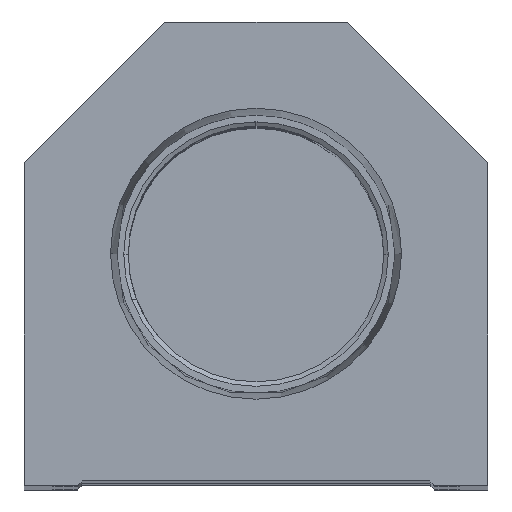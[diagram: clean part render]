
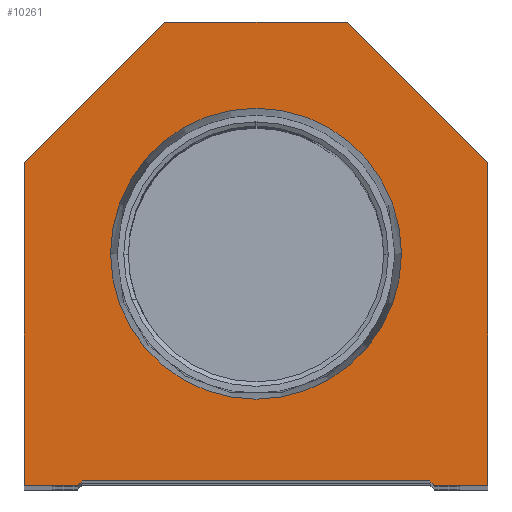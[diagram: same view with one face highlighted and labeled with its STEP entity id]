
A CAD part, top view. The second image highlights one B-rep face of the part: STEP entity #10261.
In plain terms, the highlighted planar face has unit normal (0, 0, 1).
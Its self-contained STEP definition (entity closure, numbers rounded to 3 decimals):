
#161 = ORIENTED_EDGE ( 'NONE', *, *, #20003, .T. ) ;
#501 = LINE ( 'NONE', #19833, #11847 ) ;
#670 = DIRECTION ( 'NONE',  ( 0., 1., 0. ) ) ;
#731 = VECTOR ( 'NONE', #17148, 1000. ) ;
#1199 = CARTESIAN_POINT ( 'NONE',  ( -19.05, 0.5, 0. ) ) ;
#1605 = EDGE_CURVE ( 'NONE', #14671, #19268, #19829, .T. ) ;
#1861 = CARTESIAN_POINT ( 'NONE',  ( -19.05, 0., 0. ) ) ;
#1906 = CARTESIAN_POINT ( 'NONE',  ( -10., 50.8, 0. ) ) ;
#1983 = PLANE ( 'NONE',  #16616 ) ;
#2239 = EDGE_CURVE ( 'NONE', #10819, #5529, #3513, .T. ) ;
#2278 = CARTESIAN_POINT ( 'NONE',  ( -25.4, 35.4, 0. ) ) ;
#2583 = LINE ( 'NONE', #6356, #17219 ) ;
#2607 = DIRECTION ( 'NONE',  ( 0., 0., 1. ) ) ;
#2882 = CARTESIAN_POINT ( 'NONE',  ( 25.4, 0., 0. ) ) ;
#3064 = LINE ( 'NONE', #12749, #14985 ) ;
#3188 = ORIENTED_EDGE ( 'NONE', *, *, #11185, .T. ) ;
#3513 = CIRCLE ( 'NONE', #17604, 15.947 ) ;
#3676 = CARTESIAN_POINT ( 'NONE',  ( -9.775, 9.775, 0. ) ) ;
#3688 = VECTOR ( 'NONE', #670, 1000. ) ;
#4543 = CARTESIAN_POINT ( 'NONE',  ( 15.947, 25.4, 0. ) ) ;
#4572 = CARTESIAN_POINT ( 'NONE',  ( 25.4, 0., 0. ) ) ;
#4615 = VERTEX_POINT ( 'NONE', #18683 ) ;
#4969 = VERTEX_POINT ( 'NONE', #1199 ) ;
#5046 = DIRECTION ( 'NONE',  ( 1., 0., 0. ) ) ;
#5193 = EDGE_CURVE ( 'NONE', #4969, #21916, #24207, .T. ) ;
#5333 = VECTOR ( 'NONE', #5046, 1000. ) ;
#5440 = LINE ( 'NONE', #3676, #7079 ) ;
#5529 = VERTEX_POINT ( 'NONE', #19561 ) ;
#5963 = ORIENTED_EDGE ( 'NONE', *, *, #18621, .T. ) ;
#6261 = VERTEX_POINT ( 'NONE', #22822 ) ;
#6356 = CARTESIAN_POINT ( 'NONE',  ( 9.775, 9.775, 0. ) ) ;
#6702 = LINE ( 'NONE', #18195, #24465 ) ;
#6726 = CARTESIAN_POINT ( 'NONE',  ( 0., 25.4, 0. ) ) ;
#7078 = EDGE_CURVE ( 'NONE', #18668, #4615, #15479, .T. ) ;
#7079 = VECTOR ( 'NONE', #11383, 1000. ) ;
#7310 = CARTESIAN_POINT ( 'NONE',  ( 10., 50.8, 0. ) ) ;
#7368 = AXIS2_PLACEMENT_3D ( 'NONE', #6726, #23714, #12512 ) ;
#7783 = ORIENTED_EDGE ( 'NONE', *, *, #2239, .F. ) ;
#7798 = CARTESIAN_POINT ( 'NONE',  ( 0., 0., 0. ) ) ;
#9578 = FACE_OUTER_BOUND ( 'NONE', #17328, .T. ) ;
#9806 = FACE_BOUND ( 'NONE', #22988, .T. ) ;
#10240 = DIRECTION ( 'NONE',  ( -0.707, 0.707, 0. ) ) ;
#10261 = ADVANCED_FACE ( 'NONE', ( #9806, #9578 ), #1983, .T. ) ;
#10560 = EDGE_CURVE ( 'NONE', #5529, #10819, #15009, .T. ) ;
#10819 = VERTEX_POINT ( 'NONE', #4543 ) ;
#10841 = CARTESIAN_POINT ( 'NONE',  ( 19.05, 0., 0. ) ) ;
#11005 = DIRECTION ( 'NONE',  ( 0., -1., 0. ) ) ;
#11185 = EDGE_CURVE ( 'NONE', #11504, #6261, #17961, .T. ) ;
#11383 = DIRECTION ( 'NONE',  ( 0.707, 0.707, 0. ) ) ;
#11504 = VERTEX_POINT ( 'NONE', #2882 ) ;
#11847 = VECTOR ( 'NONE', #18036, 1000. ) ;
#11965 = ORIENTED_EDGE ( 'NONE', *, *, #24130, .T. ) ;
#12512 = DIRECTION ( 'NONE',  ( 1., 0., 0. ) ) ;
#12583 = LINE ( 'NONE', #10841, #20009 ) ;
#12749 = CARTESIAN_POINT ( 'NONE',  ( -25.4, 0., 0. ) ) ;
#13366 = CARTESIAN_POINT ( 'NONE',  ( 19.05, 0.5, 0. ) ) ;
#13536 = ORIENTED_EDGE ( 'NONE', *, *, #10560, .F. ) ;
#13910 = ORIENTED_EDGE ( 'NONE', *, *, #1605, .T. ) ;
#13941 = VECTOR ( 'NONE', #22134, 1000. ) ;
#14671 = VERTEX_POINT ( 'NONE', #1906 ) ;
#14750 = ORIENTED_EDGE ( 'NONE', *, *, #5193, .T. ) ;
#14881 = EDGE_CURVE ( 'NONE', #23544, #14671, #501, .T. ) ;
#14915 = CARTESIAN_POINT ( 'NONE',  ( -25.4, 0., 0. ) ) ;
#14985 = VECTOR ( 'NONE', #11005, 1000. ) ;
#15009 = CIRCLE ( 'NONE', #7368, 15.947 ) ;
#15479 = LINE ( 'NONE', #1861, #731 ) ;
#15480 = DIRECTION ( 'NONE',  ( 0., 0., 1. ) ) ;
#15711 = DIRECTION ( 'NONE',  ( 0.707, -0.707, 0. ) ) ;
#15898 = CARTESIAN_POINT ( 'NONE',  ( -25.4, 35.4, 0. ) ) ;
#16348 = VERTEX_POINT ( 'NONE', #22586 ) ;
#16421 = ORIENTED_EDGE ( 'NONE', *, *, #14881, .T. ) ;
#16616 = AXIS2_PLACEMENT_3D ( 'NONE', #7798, #15480, #21575 ) ;
#16644 = DIRECTION ( 'NONE',  ( 1., 0., 0. ) ) ;
#17129 = EDGE_CURVE ( 'NONE', #6261, #23544, #6702, .T. ) ;
#17148 = DIRECTION ( 'NONE',  ( 1., 0., 0. ) ) ;
#17219 = VECTOR ( 'NONE', #15711, 1000. ) ;
#17328 = EDGE_LOOP ( 'NONE', ( #21083, #5963, #14750, #161, #22136, #3188, #18176, #16421, #13910, #11965 ) ) ;
#17604 = AXIS2_PLACEMENT_3D ( 'NONE', #18378, #2607, #20036 ) ;
#17961 = LINE ( 'NONE', #4572, #3688 ) ;
#18036 = DIRECTION ( 'NONE',  ( -1., 0., 0. ) ) ;
#18176 = ORIENTED_EDGE ( 'NONE', *, *, #17129, .T. ) ;
#18195 = CARTESIAN_POINT ( 'NONE',  ( 25.4, 35.4, 0. ) ) ;
#18378 = CARTESIAN_POINT ( 'NONE',  ( 0., 25.4, 0. ) ) ;
#18621 = EDGE_CURVE ( 'NONE', #4615, #4969, #5440, .T. ) ;
#18668 = VERTEX_POINT ( 'NONE', #14915 ) ;
#18683 = CARTESIAN_POINT ( 'NONE',  ( -19.55, 0., 0. ) ) ;
#19268 = VERTEX_POINT ( 'NONE', #2278 ) ;
#19511 = EDGE_CURVE ( 'NONE', #16348, #11504, #12583, .T. ) ;
#19561 = CARTESIAN_POINT ( 'NONE',  ( -15.947, 25.4, 0. ) ) ;
#19829 = LINE ( 'NONE', #15898, #13941 ) ;
#19833 = CARTESIAN_POINT ( 'NONE',  ( 10., 50.8, 0. ) ) ;
#20003 = EDGE_CURVE ( 'NONE', #21916, #16348, #2583, .T. ) ;
#20009 = VECTOR ( 'NONE', #16644, 1000. ) ;
#20036 = DIRECTION ( 'NONE',  ( 1., 0., 0. ) ) ;
#21083 = ORIENTED_EDGE ( 'NONE', *, *, #7078, .T. ) ;
#21575 = DIRECTION ( 'NONE',  ( 1., 0., 0. ) ) ;
#21916 = VERTEX_POINT ( 'NONE', #13366 ) ;
#22134 = DIRECTION ( 'NONE',  ( -0.707, -0.707, 0. ) ) ;
#22136 = ORIENTED_EDGE ( 'NONE', *, *, #19511, .T. ) ;
#22413 = CARTESIAN_POINT ( 'NONE',  ( -19.05, 0.5, 0. ) ) ;
#22586 = CARTESIAN_POINT ( 'NONE',  ( 19.55, 0., 0. ) ) ;
#22822 = CARTESIAN_POINT ( 'NONE',  ( 25.4, 35.4, 0. ) ) ;
#22988 = EDGE_LOOP ( 'NONE', ( #7783, #13536 ) ) ;
#23544 = VERTEX_POINT ( 'NONE', #7310 ) ;
#23714 = DIRECTION ( 'NONE',  ( 0., 0., 1. ) ) ;
#24130 = EDGE_CURVE ( 'NONE', #19268, #18668, #3064, .T. ) ;
#24207 = LINE ( 'NONE', #22413, #5333 ) ;
#24465 = VECTOR ( 'NONE', #10240, 1000. ) ;
